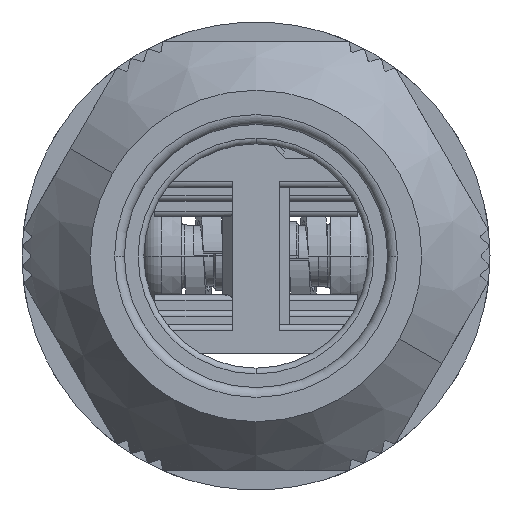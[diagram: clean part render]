
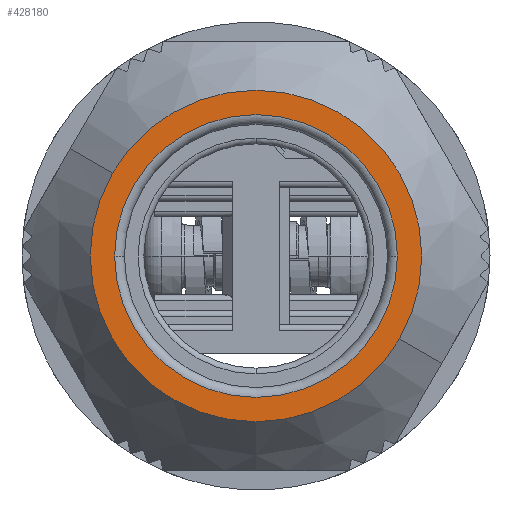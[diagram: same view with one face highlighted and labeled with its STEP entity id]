
A CAD part, left-side view. The second image highlights one B-rep face of the part: STEP entity #428180.
In plain terms, the highlighted planar face has unit normal (-1, 0, 0).
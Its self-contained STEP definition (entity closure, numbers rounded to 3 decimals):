
#427640=CARTESIAN_POINT('',(-77.733,69.479,
0.));
#427650=VERTEX_POINT('',#427640);
#427680=CARTESIAN_POINT('',(-77.733,62.229,
0.));
#427690=DIRECTION('',(-1.,0.,0.));
#427700=DIRECTION('',(0.,1.,0.));
#427710=AXIS2_PLACEMENT_3D('',#427680,#427690,#427700);
#427720=CIRCLE('',#427710,7.25);
#427730=CARTESIAN_POINT('',(-77.733,54.979,
0.));
#427740=VERTEX_POINT('',#427730);
#427750=EDGE_CURVE('',#427740,#427650,#427720,.T.);
#427890=CARTESIAN_POINT('',(-77.733,62.911,
-1.182));
#427900=DIRECTION('',(-1.,0.,0.));
#427910=DIRECTION('',(0.,1.,0.));
#427920=AXIS2_PLACEMENT_3D('',#427890,#427900,#427910);
#427930=PLANE('',#427920);
#427940=CARTESIAN_POINT('',(-77.733,62.229,
0.));
#427950=DIRECTION('',(1.,0.,0.));
#427960=DIRECTION('',(0.,-0.866,
-0.5));
#427970=AXIS2_PLACEMENT_3D('',#427940,#427950,#427960);
#427980=CIRCLE('',#427970,8.5);
#427990=CARTESIAN_POINT('',(-77.733,53.729,
0.));
#428000=VERTEX_POINT('',#427990);
#428010=CARTESIAN_POINT('',(-77.733,54.868,-4.25));
#428020=VERTEX_POINT('',#428010);
#428030=EDGE_CURVE('',#428000,#428020,#427980,.T.);
#428040=ORIENTED_EDGE('',*,*,#428030,.F.);
#428050=CARTESIAN_POINT('',(-77.733,69.591,
4.25));
#428060=VERTEX_POINT('',#428050);
#428070=EDGE_CURVE('',#428020,#428060,#427980,.T.);
#428080=ORIENTED_EDGE('',*,*,#428070,.F.);
#428090=EDGE_CURVE('',#428060,#428000,#427980,.T.);
#428100=ORIENTED_EDGE('',*,*,#428090,.F.);
#428110=EDGE_LOOP('',(#428100,#428080,#428040));
#428120=FACE_OUTER_BOUND('',#428110,.T.);
#428130=EDGE_CURVE('',#427650,#427740,#427720,.T.);
#428140=ORIENTED_EDGE('',*,*,#428130,.F.);
#428150=ORIENTED_EDGE('',*,*,#427750,.F.);
#428160=EDGE_LOOP('',(#428150,#428140));
#428170=FACE_BOUND('',#428160,.T.);
#428180=ADVANCED_FACE('',(#428120,#428170),#427930,.T.);
